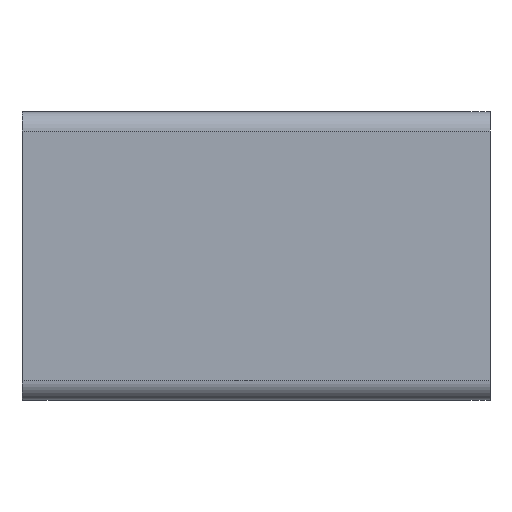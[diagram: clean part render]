
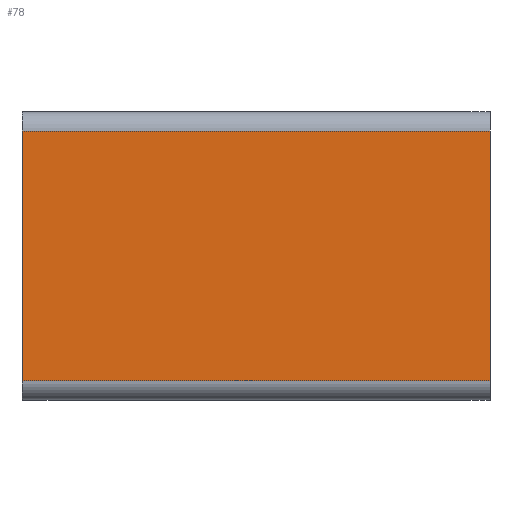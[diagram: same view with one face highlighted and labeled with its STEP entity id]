
A CAD part, top view. The second image highlights one B-rep face of the part: STEP entity #78.
In plain terms, the highlighted planar face has unit normal (0, 0, 1).
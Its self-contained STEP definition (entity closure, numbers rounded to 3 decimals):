
#78 = ADVANCED_FACE( '', ( #158 ), #159, .F. );
#158 = FACE_OUTER_BOUND( '', #231, .T. );
#159 = PLANE( '', #232 );
#231 = EDGE_LOOP( '', ( #401, #402, #403, #404 ) );
#232 = AXIS2_PLACEMENT_3D( '', #405, #406, #407 );
#401 = ORIENTED_EDGE( '', *, *, #455, .T. );
#402 = ORIENTED_EDGE( '', *, *, #493, .F. );
#403 = ORIENTED_EDGE( '', *, *, #470, .F. );
#404 = ORIENTED_EDGE( '', *, *, #481, .T. );
#405 = CARTESIAN_POINT( '', ( 55., -2.5, 10.5 ) );
#406 = DIRECTION( '', ( 0., 0., -1. ) );
#407 = DIRECTION( '', ( 0., 1., 0. ) );
#455 = EDGE_CURVE( '', #549, #547, #550, .T. );
#470 = EDGE_CURVE( '', #572, #574, #575, .T. );
#481 = EDGE_CURVE( '', #572, #549, #588, .T. );
#493 = EDGE_CURVE( '', #574, #547, #601, .T. );
#547 = VERTEX_POINT( '', #670 );
#549 = VERTEX_POINT( '', #672 );
#550 = LINE( '', #673, #674 );
#572 = VERTEX_POINT( '', #703 );
#574 = VERTEX_POINT( '', #705 );
#575 = LINE( '', #706, #707 );
#588 = LINE( '', #722, #723 );
#601 = LINE( '', #740, #741 );
#670 = CARTESIAN_POINT( '', ( -5., -34.5, 10.5 ) );
#672 = CARTESIAN_POINT( '', ( -5., -2.5, 10.5 ) );
#673 = CARTESIAN_POINT( '', ( -5., -2.5, 10.5 ) );
#674 = VECTOR( '', #789, 1000. );
#703 = CARTESIAN_POINT( '', ( 55., -2.5, 10.5 ) );
#705 = CARTESIAN_POINT( '', ( 55., -34.5, 10.5 ) );
#706 = CARTESIAN_POINT( '', ( 55., -2.5, 10.5 ) );
#707 = VECTOR( '', #815, 1000. );
#722 = CARTESIAN_POINT( '', ( 55., -2.5, 10.5 ) );
#723 = VECTOR( '', #827, 1000. );
#740 = CARTESIAN_POINT( '', ( 55., -34.5, 10.5 ) );
#741 = VECTOR( '', #835, 1000. );
#789 = DIRECTION( '', ( 0., -1., 0. ) );
#815 = DIRECTION( '', ( 0., -1., 0. ) );
#827 = DIRECTION( '', ( -1., 0., 0. ) );
#835 = DIRECTION( '', ( -1., 0., 0. ) );
